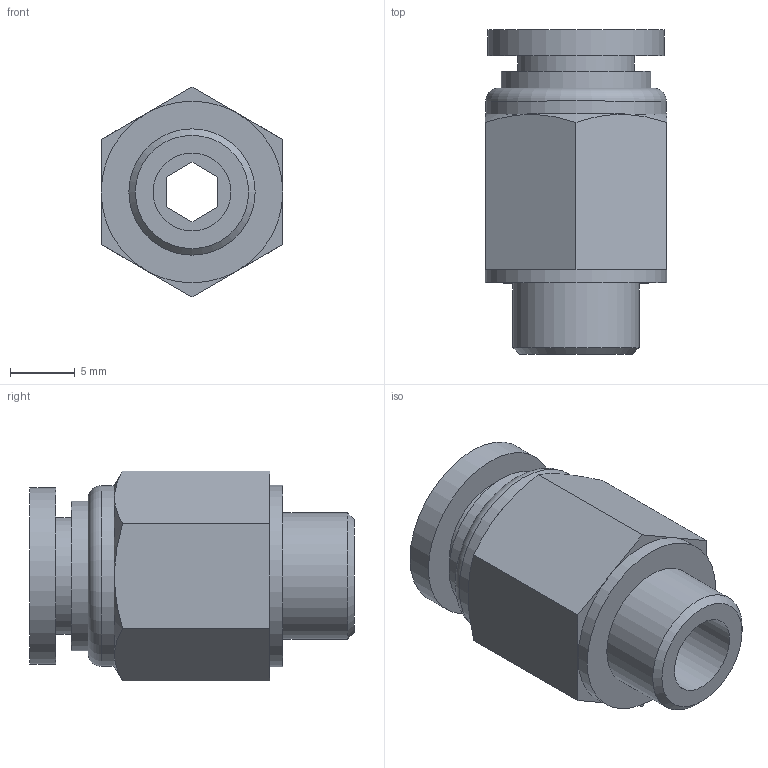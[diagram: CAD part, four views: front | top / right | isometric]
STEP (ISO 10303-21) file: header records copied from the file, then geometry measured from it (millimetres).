
FILE_DESCRIPTION((''),'2;1');
FILE_NAME('S:\UTecnico\ArchivioUT\Speciali Clienti\Speciali KONFIT\Plastica\RP\08\RP 51\RP511808.stp','2012-05-14T15:13:34',('UT5'),(''),'Autodesk Inventor 2012','Autodesk Inventor 2012','');
FILE_SCHEMA(('AUTOMOTIVE_DESIGN { 1 0 10303 214 1 1 1 1 }'));
Length unit declared in the file: millimetre
Products named in the file (1): RP511808
Bounding box: 14 x 25 x 16.17 mm (x, y, z)
Volume: 2442.5 mm3; surface area: 2020.2 mm2
Topology: 1 solids, 1 shells, 37 faces, 77 edges, 48 vertices
Faces by surface type: plane 26, cylinder 8, cone 2, torus 1
Full cylindrical faces by diameter (mm): 6 x1, 8 x1, 9 x1, 9.73 x1, 11.5 x1, 13.6 x1, 13.9 x1, 14 x1
Entity records: 947 total; most frequent: CARTESIAN_POINT 162, DIRECTION 158, ORIENTED_EDGE 130, EDGE_CURVE 65, AXIS2_PLACEMENT_3D 61, EDGE_LOOP 56, VERTEX_POINT 47, FACE_OUTER_BOUND 37
